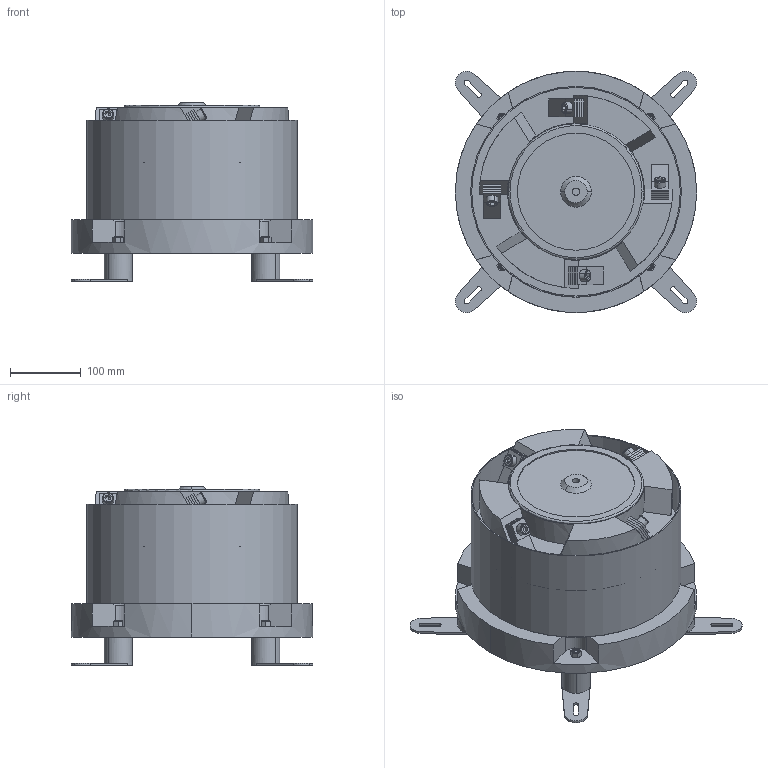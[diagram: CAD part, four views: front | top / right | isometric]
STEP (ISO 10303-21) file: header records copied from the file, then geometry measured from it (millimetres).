
FILE_DESCRIPTION(/* description */ (''),/* implementation_level */ '2;1');
FILE_NAME(/* name */ 'DE300 铝盖.stp',/* time_stamp */ '2025-07-17T20:54:40+08:00',/* author */ (''),/* organization */ (''),/* preprocessor_version */ 'ST-DEVELOPER v18.102',/* originating_system */ 'SIEMENS PLM Software NX2206.1700',/* authorisation */ '');
FILE_SCHEMA (('AP203_CONFIGURATION_CONTROLLED_3D_DESIGN_OF_MECHANICAL_PARTS_AND_ASSEMBLIES_MIM_LF { 1 0 10303 403 2 1 2}'));
Length unit declared in the file: millimetre
Products named in the file (1): DE300 铝盖 2023_stp_objects
Bounding box: 340.22 x 340.22 x 252 mm (x, y, z)
Volume: 9663551.1 mm3; surface area: 873480.7 mm2
Topology: 35 solids, 35 shells, 533 faces, 1233 edges, 784 vertices
Faces by surface type: plane 288, cylinder 155, cone 64, torus 26
Full cylindrical faces by diameter (mm): 294 x2, 297 x1
Entity records: 16300 total; most frequent: CARTESIAN_POINT 3574, DIRECTION 2658, ORIENTED_EDGE 2442, EDGE_CURVE 1221, AXIS2_PLACEMENT_3D 999, VERTEX_POINT 783, LINE 660, VECTOR 660
